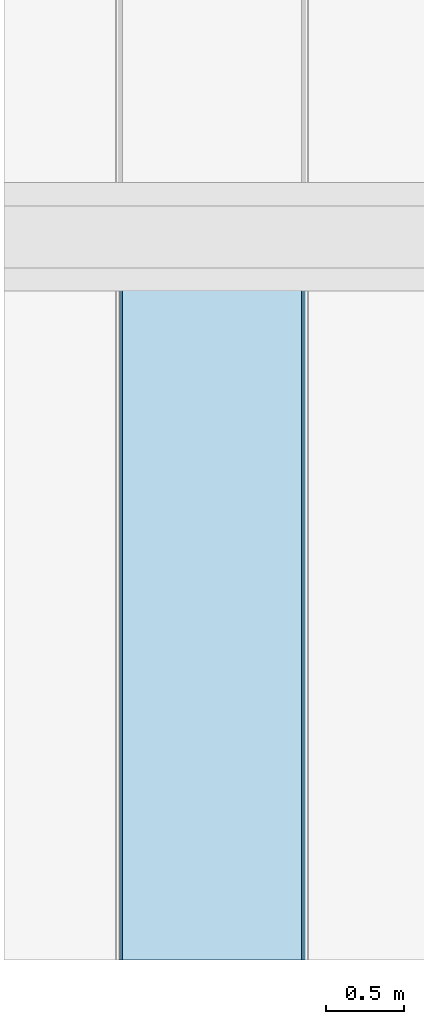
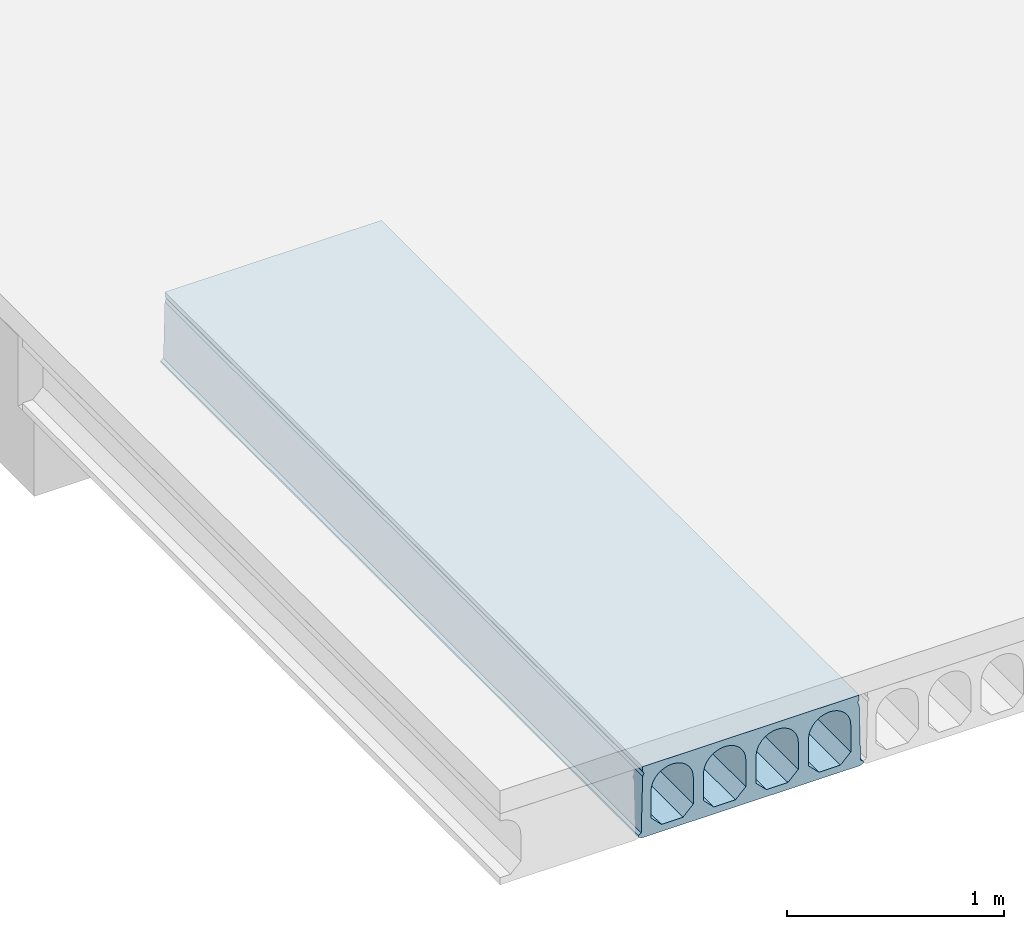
# One storey, part 39 of 98: 1 slab.
"""IFC2X3 building model written with IfcOpenShell, lengths in millimetres."""

from ifc_helpers import new_model, entity, si_unit, converted_unit, derived_unit, direction, frame, origin_with_axes, place, context, subcontext, project, spatial, faceted_brep, type_object, element, save


model = new_model("IFC2X3")

# Units and contexts
model_context = context("Model", 3, precision=0.01, world=frame((0.0, 4.29681676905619e-09, 0.0)), true_north=direction((4.01073788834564e-13, 1.0)))
plan_context = context("Plan", 3, precision=0.01, world=frame((0.0, 4.29681676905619e-09, 0.0)), true_north=direction((4.01073788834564e-13, 1.0)))
body_context = subcontext(model_context, "Body", "Model", "MODEL_VIEW")
ifc_project = project(units=[converted_unit("PLANEANGLEUNIT", "DEGREE", entity("IfcPositiveLengthMeasure", 0.0174532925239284), si_unit("PLANEANGLEUNIT", "RADIAN"), dimensions=[0, 0, 0, 0, 0, 0, 0]), si_unit("AREAUNIT", "SQUARE_METRE"), si_unit("LENGTHUNIT", "METRE", prefix="MILLI"), si_unit("MASSUNIT", "GRAM", prefix="KILO"), si_unit("POWERUNIT", "WATT"), si_unit("PRESSUREUNIT", "PASCAL"), si_unit("FORCEUNIT", "NEWTON", prefix="KILO"), si_unit("ELECTRICCURRENTUNIT", "AMPERE"), si_unit("THERMODYNAMICTEMPERATUREUNIT", "DEGREE_CELSIUS"), si_unit("TIMEUNIT", "SECOND"), si_unit("VOLUMEUNIT", "CUBIC_METRE"), derived_unit("LINEARVELOCITYUNIT", [(si_unit("LENGTHUNIT", "METRE"), 1), (si_unit("TIMEUNIT", "SECOND"), -1)]), derived_unit("VOLUMETRICFLOWRATEUNIT", [(si_unit("VOLUMEUNIT", "CUBIC_METRE"), 1), (si_unit("TIMEUNIT", "SECOND"), -1)]), derived_unit("THERMALTRANSMITTANCEUNIT", [(si_unit("POWERUNIT", "WATT"), 1), (si_unit("THERMODYNAMICTEMPERATUREUNIT", "KELVIN"), -1), (si_unit("AREAUNIT", "SQUARE_METRE"), -1)])], contexts=[model_context, plan_context])

# Site, building, storey
site_placement = place(None, frame((0.0, -4.29681676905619e-09, 0.0), z_axis=(0.0, 0.0, 1.0), x_axis=(1.0, 0.0, 0.0)))
site = spatial("IfcSite", under=ifc_project, at=site_placement, Name="Gardermoen", CompositionType="ELEMENT")
building_placement = place(site_placement, frame((0.0, 4.29681676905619e-09, 0.0), z_axis=(0.0, 0.0, 1.0), x_axis=(1.0, 0.0, 0.0)))
building = spatial("IfcBuilding", under=site, at=building_placement, Name="TS", CompositionType="ELEMENT")
storey_placement = place(building_placement, origin_with_axes())
storey = spatial("IfcBuildingStorey", under=building, at=storey_placement, Name="D", CompositionType="ELEMENT", Elevation=0.0)

# Slab
slab_type = type_object("IfcSlabType", Name="HD400", PredefinedType="NOTDEFINED")
slab_placement = place(storey_placement, frame((515199.999766, 396739.995625, 203600.0), z_axis=(0.0, 0.0, 1.0), x_axis=(0.0, 1.0, 0.0)))
element("IfcSlab", 1, at=slab_placement, inside=storey, type_object=slab_type, Name="HULLDEKKE", ObjectType="HD400", PredefinedType="FLOOR", context=body_context, shape_type="Brep", body=[
    faceted_brep([(4105.68103395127, 600.0, -180.0), (4105.68103395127, 600.0, -190.0), (8520.0, 600.0, -190.0), (8520.0, 600.0, -180.0), (4105.68103395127, 585.0, -170.0), (8520.0, 585.0, -170.0), (4105.68103395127, 577.5, 145.0), (8520.0, 577.5, 145.0), (4105.68103395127, 570.0, 160.0), (8520.0, 570.0, 160.0), (4105.68103395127, 577.5, 175.0), (8520.0, 577.5, 175.0), (4105.68103395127, 577.5, 200.0), (8520.0, 577.5, 200.0), (4105.68103395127, -577.5, 200.0), (8520.0, -577.5, 200.0), (4105.68103395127, -577.5, 175.0), (8520.0, -577.5, 175.0), (4105.68103395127, -570.0, 160.0), (8520.0, -570.0, 160.0), (4105.68103395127, -577.5, 145.0), (8520.0, -577.5, 145.0), (4105.68103395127, -585.0, -170.0), (8520.0, -585.0, -170.0), (4105.68103395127, -600.0, -180.0), (8520.0, -600.0, -180.0), (4105.68103395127, -600.0, -190.0), (8520.0, -600.0, -190.0), (4105.68103395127, -583.380004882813, -200.0), (8520.0, -583.380004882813, -200.0), (4105.68103395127, 583.380004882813, -200.0), (8520.0, 583.380004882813, -200.0), (4105.68103395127, -477.5, -160.0), (4105.68103395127, -362.5, -160.0), (8520.0, -362.5, -160.0), (8520.0, -477.5, -160.0), (4105.68103395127, -532.5, -105.0), (8520.0, -532.5, -105.0), (4105.68103395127, -532.5, 47.5), (8520.0, -532.5, 47.5), (4105.68103395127, -532.115755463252, 56.7901763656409), (8520.0, -532.115755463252, 56.7901763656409), (4105.68103395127, -530.965646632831, 66.0168914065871), (8520.0, -530.965646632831, 66.0168914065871), (4105.68103395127, -529.057529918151, 75.1171173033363), (8520.0, -529.057529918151, 75.1171173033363), (4105.68103395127, -526.404439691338, 84.028690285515), (8520.0, -526.404439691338, 84.028690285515), (4105.68103395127, -523.024499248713, 92.6907352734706), (8520.0, -523.024499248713, 92.6907352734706), (4105.68103395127, -518.940797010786, 101.044081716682), (8520.0, -518.940797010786, 101.044081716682), (4105.68103395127, -514.181228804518, 109.031667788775), (8520.0, -514.181228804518, 109.031667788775), (4105.68103395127, -508.778307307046, 116.598930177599), (8520.0, -508.778307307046, 116.598930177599), (4105.68103395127, -502.768939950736, 123.694176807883), (8520.0, -502.768939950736, 123.694176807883), (4105.68103395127, -496.194176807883, 130.268939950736), (8520.0, -496.194176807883, 130.268939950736), (4105.68103395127, -489.098930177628, 136.278307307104), (8520.0, -489.098930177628, 136.278307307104), (4105.68103395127, -481.531667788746, 141.681228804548), (8520.0, -481.531667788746, 141.681228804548), (4105.68103395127, -473.544081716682, 146.440797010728), (8520.0, -473.544081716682, 146.440797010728), (4105.68103395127, -465.190735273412, 150.524499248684), (8520.0, -465.190735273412, 150.524499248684), (4105.68103395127, -456.528690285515, 153.904439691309), (8520.0, -456.528690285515, 153.904439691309), (4105.68103395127, -447.617117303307, 156.55752991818), (8520.0, -447.617117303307, 156.55752991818), (4105.68103395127, -438.516891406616, 158.465646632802), (8520.0, -438.516891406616, 158.465646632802), (4105.68103395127, -429.290176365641, 159.615755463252), (8520.0, -429.290176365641, 159.615755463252), (4105.68103395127, -420.0, 160.0), (8520.0, -420.0, 160.0), (4105.68103395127, -410.709823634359, 159.615755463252), (8520.0, -410.709823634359, 159.615755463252), (4105.68103395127, -401.483108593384, 158.465646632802), (8520.0, -401.483108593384, 158.465646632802), (4105.68103395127, -392.382882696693, 156.55752991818), (8520.0, -392.382882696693, 156.55752991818), (4105.68103395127, -383.471309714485, 153.904439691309), (8520.0, -383.471309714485, 153.904439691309), (4105.68103395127, -374.809264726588, 150.524499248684), (8520.0, -374.809264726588, 150.524499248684), (4105.68103395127, -366.455918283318, 146.440797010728), (8520.0, -366.455918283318, 146.440797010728), (4105.68103395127, -358.468332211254, 141.681228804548), (8520.0, -358.468332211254, 141.681228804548), (4105.68103395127, -350.901069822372, 136.278307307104), (8520.0, -350.901069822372, 136.278307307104), (4105.68103395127, -343.805823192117, 130.268939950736), (8520.0, -343.805823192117, 130.268939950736), (4105.68103395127, -337.231060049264, 123.694176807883), (8520.0, -337.231060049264, 123.694176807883), (4105.68103395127, -331.221692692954, 116.598930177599), (8520.0, -331.221692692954, 116.598930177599), (4105.68103395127, -325.818771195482, 109.031667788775), (8520.0, -325.818771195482, 109.031667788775), (4105.68103395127, -321.059202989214, 101.044081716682), (8520.0, -321.059202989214, 101.044081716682), (4105.68103395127, -316.975500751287, 92.6907352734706), (8520.0, -316.975500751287, 92.6907352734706), (4105.68103395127, -313.595560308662, 84.028690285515), (8520.0, -313.595560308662, 84.028690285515), (4105.68103395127, -310.942470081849, 75.1171173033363), (8520.0, -310.942470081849, 75.1171173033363), (4105.68103395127, -309.034353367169, 66.0168914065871), (8520.0, -309.034353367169, 66.0168914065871), (4105.68103395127, -307.884244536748, 56.7901763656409), (8520.0, -307.884244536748, 56.7901763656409), (4105.68103395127, -307.5, 47.5), (8520.0, -307.5, 47.5), (4105.68103395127, -307.5, -105.0), (8520.0, -307.5, -105.0), (4105.68103395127, -197.5, -160.0), (4105.68103395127, -82.5, -160.0), (8520.0, -82.5, -160.0), (8520.0, -197.5, -160.0), (4105.68103395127, -252.5, -105.0), (8520.0, -252.5, -105.0), (4105.68103395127, -252.5, 47.5), (8520.0, -252.5, 47.5), (4105.68103395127, -252.115755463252, 56.7901763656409), (8520.0, -252.115755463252, 56.7901763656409), (4105.68103395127, -250.965646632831, 66.0168914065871), (8520.0, -250.965646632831, 66.0168914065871), (4105.68103395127, -249.057529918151, 75.1171173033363), (8520.0, -249.057529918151, 75.1171173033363), (4105.68103395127, -246.404439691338, 84.028690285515), (8520.0, -246.404439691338, 84.028690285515), (4105.68103395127, -243.024499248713, 92.6907352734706), (8520.0, -243.024499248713, 92.6907352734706), (4105.68103395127, -238.940797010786, 101.044081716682), (8520.0, -238.940797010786, 101.044081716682), (4105.68103395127, -234.181228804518, 109.031667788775), (8520.0, -234.181228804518, 109.031667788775), (4105.68103395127, -228.778307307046, 116.598930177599), (8520.0, -228.778307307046, 116.598930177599), (4105.68103395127, -222.768939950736, 123.694176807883), (8520.0, -222.768939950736, 123.694176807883), (4105.68103395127, -216.194176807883, 130.268939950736), (8520.0, -216.194176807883, 130.268939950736), (4105.68103395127, -209.098930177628, 136.278307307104), (8520.0, -209.098930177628, 136.278307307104), (4105.68103395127, -201.531667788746, 141.681228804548), (8520.0, -201.531667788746, 141.681228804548), (4105.68103395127, -193.544081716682, 146.440797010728), (8520.0, -193.544081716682, 146.440797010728), (4105.68103395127, -185.190735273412, 150.524499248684), (8520.0, -185.190735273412, 150.524499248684), (4105.68103395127, -176.528690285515, 153.904439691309), (8520.0, -176.528690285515, 153.904439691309), (4105.68103395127, -167.617117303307, 156.55752991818), (8520.0, -167.617117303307, 156.55752991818), (4105.68103395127, -158.516891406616, 158.465646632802), (8520.0, -158.516891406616, 158.465646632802), (4105.68103395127, -149.290176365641, 159.615755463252), (8520.0, -149.290176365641, 159.615755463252), (4105.68103395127, -140.0, 160.0), (8520.0, -140.0, 160.0), (4105.68103395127, -130.709823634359, 159.615755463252), (8520.0, -130.709823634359, 159.615755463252), (4105.68103395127, -121.483108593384, 158.465646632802), (8520.0, -121.483108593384, 158.465646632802), (4105.68103395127, -112.382882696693, 156.55752991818), (8520.0, -112.382882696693, 156.55752991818), (4105.68103395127, -103.471309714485, 153.904439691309), (8520.0, -103.471309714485, 153.904439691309), (4105.68103395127, -94.8092647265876, 150.524499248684), (8520.0, -94.8092647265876, 150.524499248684), (4105.68103395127, -86.4559182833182, 146.440797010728), (8520.0, -86.4559182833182, 146.440797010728), (4105.68103395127, -78.4683322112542, 141.681228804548), (8520.0, -78.4683322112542, 141.681228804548), (4105.68103395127, -70.9010698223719, 136.278307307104), (8520.0, -70.9010698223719, 136.278307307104), (4105.68103395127, -63.8058231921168, 130.268939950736), (8520.0, -63.8058231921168, 130.268939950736), (4105.68103395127, -57.2310600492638, 123.694176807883), (8520.0, -57.2310600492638, 123.694176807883), (4105.68103395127, -51.2216926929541, 116.598930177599), (8520.0, -51.2216926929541, 116.598930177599), (4105.68103395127, -45.8187711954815, 109.031667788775), (8520.0, -45.8187711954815, 109.031667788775), (4105.68103395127, -41.0592029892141, 101.044081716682), (8520.0, -41.0592029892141, 101.044081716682), (4105.68103395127, -36.9755007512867, 92.6907352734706), (8520.0, -36.9755007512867, 92.6907352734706), (4105.68103395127, -33.5955603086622, 84.028690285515), (8520.0, -33.5955603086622, 84.028690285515), (4105.68103395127, -30.942470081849, 75.1171173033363), (8520.0, -30.942470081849, 75.1171173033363), (4105.68103395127, -29.0343533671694, 66.0168914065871), (8520.0, -29.0343533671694, 66.0168914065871), (4105.68103395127, -27.8842445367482, 56.7901763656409), (8520.0, -27.8842445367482, 56.7901763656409), (4105.68103395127, -27.5, 47.5), (8520.0, -27.5, 47.5), (4105.68103395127, -27.5, -105.0), (8520.0, -27.5, -105.0), (4105.68103395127, 82.5, -160.0), (4105.68103395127, 197.5, -160.0), (8520.0, 197.5, -160.0), (8520.0, 82.5, -160.0), (4105.68103395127, 27.5, -105.0), (8520.0, 27.5, -105.0), (4105.68103395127, 27.5, 47.5), (8520.0, 27.5, 47.5), (4105.68103395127, 27.8842445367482, 56.7901763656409), (8520.0, 27.8842445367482, 56.7901763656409), (4105.68103395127, 29.0343533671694, 66.0168914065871), (8520.0, 29.0343533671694, 66.0168914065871), (4105.68103395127, 30.942470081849, 75.1171173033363), (8520.0, 30.942470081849, 75.1171173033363), (4105.68103395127, 33.5955603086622, 84.028690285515), (8520.0, 33.5955603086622, 84.028690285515), (4105.68103395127, 36.9755007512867, 92.6907352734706), (8520.0, 36.9755007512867, 92.6907352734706), (4105.68103395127, 41.0592029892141, 101.044081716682), (8520.0, 41.0592029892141, 101.044081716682), (4105.68103395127, 45.8187711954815, 109.031667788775), (8520.0, 45.8187711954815, 109.031667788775), (4105.68103395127, 51.2216926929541, 116.598930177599), (8520.0, 51.2216926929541, 116.598930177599), (4105.68103395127, 57.2310600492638, 123.694176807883), (8520.0, 57.2310600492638, 123.694176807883), (4105.68103395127, 63.8058231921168, 130.268939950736), (8520.0, 63.8058231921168, 130.268939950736), (4105.68103395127, 70.9010698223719, 136.278307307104), (8520.0, 70.9010698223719, 136.278307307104), (4105.68103395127, 78.4683322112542, 141.681228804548), (8520.0, 78.4683322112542, 141.681228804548), (4105.68103395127, 86.4559182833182, 146.440797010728), (8520.0, 86.4559182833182, 146.440797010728), (4105.68103395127, 94.8092647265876, 150.524499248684), (8520.0, 94.8092647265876, 150.524499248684), (4105.68103395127, 103.471309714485, 153.904439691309), (8520.0, 103.471309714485, 153.904439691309), (4105.68103395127, 112.382882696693, 156.55752991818), (8520.0, 112.382882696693, 156.55752991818), (4105.68103395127, 121.483108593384, 158.465646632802), (8520.0, 121.483108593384, 158.465646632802), (4105.68103395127, 130.709823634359, 159.615755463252), (8520.0, 130.709823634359, 159.615755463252), (4105.68103395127, 140.0, 160.0), (8520.0, 140.0, 160.0), (4105.68103395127, 149.290176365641, 159.615755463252), (8520.0, 149.290176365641, 159.615755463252), (4105.68103395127, 158.516891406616, 158.465646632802), (8520.0, 158.516891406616, 158.465646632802), (4105.68103395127, 167.617117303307, 156.55752991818), (8520.0, 167.617117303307, 156.55752991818), (4105.68103395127, 176.528690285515, 153.904439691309), (8520.0, 176.528690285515, 153.904439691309), (4105.68103395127, 185.190735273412, 150.524499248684), (8520.0, 185.190735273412, 150.524499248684), (4105.68103395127, 193.544081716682, 146.440797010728), (8520.0, 193.544081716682, 146.440797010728), (4105.68103395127, 201.531667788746, 141.681228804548), (8520.0, 201.531667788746, 141.681228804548), (4105.68103395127, 209.098930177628, 136.278307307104), (8520.0, 209.098930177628, 136.278307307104), (4105.68103395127, 216.194176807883, 130.268939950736), (8520.0, 216.194176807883, 130.268939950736), (4105.68103395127, 222.768939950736, 123.694176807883), (8520.0, 222.768939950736, 123.694176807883), (4105.68103395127, 228.778307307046, 116.598930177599), (8520.0, 228.778307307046, 116.598930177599), (4105.68103395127, 234.181228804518, 109.031667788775), (8520.0, 234.181228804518, 109.031667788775), (4105.68103395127, 238.940797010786, 101.044081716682), (8520.0, 238.940797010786, 101.044081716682), (4105.68103395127, 243.024499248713, 92.6907352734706), (8520.0, 243.024499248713, 92.6907352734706), (4105.68103395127, 246.404439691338, 84.028690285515), (8520.0, 246.404439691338, 84.028690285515), (4105.68103395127, 249.057529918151, 75.1171173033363), (8520.0, 249.057529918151, 75.1171173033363), (4105.68103395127, 250.965646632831, 66.0168914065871), (8520.0, 250.965646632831, 66.0168914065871), (4105.68103395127, 252.115755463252, 56.7901763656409), (8520.0, 252.115755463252, 56.7901763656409), (4105.68103395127, 252.5, 47.5), (8520.0, 252.5, 47.5), (4105.68103395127, 252.5, -105.0), (8520.0, 252.5, -105.0), (4105.68103395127, 362.5, -160.0), (4105.68103395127, 477.5, -160.0), (8520.0, 477.5, -160.0), (8520.0, 362.5, -160.0), (4105.68103395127, 307.5, -105.0), (8520.0, 307.5, -105.0), (4105.68103395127, 307.5, 47.5), (8520.0, 307.5, 47.5), (4105.68103395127, 307.884244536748, 56.7901763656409), (8520.0, 307.884244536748, 56.7901763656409), (4105.68103395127, 309.034353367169, 66.0168914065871), (8520.0, 309.034353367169, 66.0168914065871), (4105.68103395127, 310.942470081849, 75.1171173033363), (8520.0, 310.942470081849, 75.1171173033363), (4105.68103395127, 313.595560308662, 84.028690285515), (8520.0, 313.595560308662, 84.028690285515), (4105.68103395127, 316.975500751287, 92.6907352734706), (8520.0, 316.975500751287, 92.6907352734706), (4105.68103395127, 321.059202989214, 101.044081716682), (8520.0, 321.059202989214, 101.044081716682), (4105.68103395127, 325.818771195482, 109.031667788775), (8520.0, 325.818771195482, 109.031667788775), (4105.68103395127, 331.221692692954, 116.598930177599), (8520.0, 331.221692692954, 116.598930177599), (4105.68103395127, 337.231060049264, 123.694176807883), (8520.0, 337.231060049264, 123.694176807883), (4105.68103395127, 343.805823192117, 130.268939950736), (8520.0, 343.805823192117, 130.268939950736), (4105.68103395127, 350.901069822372, 136.278307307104), (8520.0, 350.901069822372, 136.278307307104), (4105.68103395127, 358.468332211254, 141.681228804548), (8520.0, 358.468332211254, 141.681228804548), (4105.68103395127, 366.455918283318, 146.440797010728), (8520.0, 366.455918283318, 146.440797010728), (4105.68103395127, 374.809264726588, 150.524499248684), (8520.0, 374.809264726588, 150.524499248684), (4105.68103395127, 383.471309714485, 153.904439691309), (8520.0, 383.471309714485, 153.904439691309), (4105.68103395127, 392.382882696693, 156.55752991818), (8520.0, 392.382882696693, 156.55752991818), (4105.68103395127, 401.483108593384, 158.465646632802), (8520.0, 401.483108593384, 158.465646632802), (4105.68103395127, 410.709823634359, 159.615755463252), (8520.0, 410.709823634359, 159.615755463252), (4105.68103395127, 420.0, 160.0), (8520.0, 420.0, 160.0), (4105.68103395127, 429.290176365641, 159.615755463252), (8520.0, 429.290176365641, 159.615755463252), (4105.68103395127, 438.516891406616, 158.465646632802), (8520.0, 438.516891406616, 158.465646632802), (4105.68103395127, 447.617117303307, 156.55752991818), (8520.0, 447.617117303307, 156.55752991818), (4105.68103395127, 456.528690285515, 153.904439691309), (8520.0, 456.528690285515, 153.904439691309), (4105.68103395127, 465.190735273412, 150.524499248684), (8520.0, 465.190735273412, 150.524499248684), (4105.68103395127, 473.544081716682, 146.440797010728), (8520.0, 473.544081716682, 146.440797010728), (4105.68103395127, 481.531667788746, 141.681228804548), (8520.0, 481.531667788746, 141.681228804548), (4105.68103395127, 489.098930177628, 136.278307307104), (8520.0, 489.098930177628, 136.278307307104), (4105.68103395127, 496.194176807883, 130.268939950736), (8520.0, 496.194176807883, 130.268939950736), (4105.68103395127, 502.768939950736, 123.694176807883), (8520.0, 502.768939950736, 123.694176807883), (4105.68103395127, 508.778307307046, 116.598930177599), (8520.0, 508.778307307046, 116.598930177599), (4105.68103395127, 514.181228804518, 109.031667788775), (8520.0, 514.181228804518, 109.031667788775), (4105.68103395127, 518.940797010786, 101.044081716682), (8520.0, 518.940797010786, 101.044081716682), (4105.68103395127, 523.024499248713, 92.6907352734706), (8520.0, 523.024499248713, 92.6907352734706), (4105.68103395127, 526.404439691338, 84.028690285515), (8520.0, 526.404439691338, 84.028690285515), (4105.68103395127, 529.057529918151, 75.1171173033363), (8520.0, 529.057529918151, 75.1171173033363), (4105.68103395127, 530.965646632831, 66.0168914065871), (8520.0, 530.965646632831, 66.0168914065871), (4105.68103395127, 532.115755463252, 56.7901763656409), (8520.0, 532.115755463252, 56.7901763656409), (4105.68103395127, 532.5, 47.5), (8520.0, 532.5, 47.5), (4105.68103395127, 532.5, -105.0), (8520.0, 532.5, -105.0)], [[[0, 1, 2, 3]], [[4, 0, 3, 5]], [[6, 4, 5, 7]], [[8, 6, 7, 9]], [[10, 8, 9, 11]], [[12, 10, 11, 13]], [[14, 12, 13, 15]], [[16, 14, 15, 17]], [[18, 16, 17, 19]], [[20, 18, 19, 21]], [[22, 20, 21, 23]], [[24, 22, 23, 25]], [[26, 24, 25, 27]], [[28, 26, 27, 29]], [[30, 28, 29, 31]], [[1, 30, 31, 2]], [[32, 33, 34, 35]], [[36, 32, 35, 37]], [[38, 36, 37, 39]], [[40, 38, 39, 41]], [[42, 40, 41, 43]], [[44, 42, 43, 45]], [[46, 44, 45, 47]], [[48, 46, 47, 49]], [[50, 48, 49, 51]], [[52, 50, 51, 53]], [[54, 52, 53, 55]], [[56, 54, 55, 57]], [[58, 56, 57, 59]], [[60, 58, 59, 61]], [[62, 60, 61, 63]], [[64, 62, 63, 65]], [[66, 64, 65, 67]], [[68, 66, 67, 69]], [[70, 68, 69, 71]], [[72, 70, 71, 73]], [[74, 72, 73, 75]], [[76, 74, 75, 77]], [[78, 76, 77, 79]], [[80, 78, 79, 81]], [[82, 80, 81, 83]], [[84, 82, 83, 85]], [[86, 84, 85, 87]], [[88, 86, 87, 89]], [[90, 88, 89, 91]], [[92, 90, 91, 93]], [[94, 92, 93, 95]], [[96, 94, 95, 97]], [[98, 96, 97, 99]], [[100, 98, 99, 101]], [[102, 100, 101, 103]], [[104, 102, 103, 105]], [[106, 104, 105, 107]], [[108, 106, 107, 109]], [[110, 108, 109, 111]], [[112, 110, 111, 113]], [[114, 112, 113, 115]], [[116, 114, 115, 117]], [[33, 116, 117, 34]], [[118, 119, 120, 121]], [[122, 118, 121, 123]], [[124, 122, 123, 125]], [[126, 124, 125, 127]], [[128, 126, 127, 129]], [[130, 128, 129, 131]], [[132, 130, 131, 133]], [[134, 132, 133, 135]], [[136, 134, 135, 137]], [[138, 136, 137, 139]], [[140, 138, 139, 141]], [[142, 140, 141, 143]], [[144, 142, 143, 145]], [[146, 144, 145, 147]], [[148, 146, 147, 149]], [[150, 148, 149, 151]], [[152, 150, 151, 153]], [[154, 152, 153, 155]], [[156, 154, 155, 157]], [[158, 156, 157, 159]], [[160, 158, 159, 161]], [[162, 160, 161, 163]], [[164, 162, 163, 165]], [[166, 164, 165, 167]], [[168, 166, 167, 169]], [[170, 168, 169, 171]], [[172, 170, 171, 173]], [[174, 172, 173, 175]], [[176, 174, 175, 177]], [[178, 176, 177, 179]], [[180, 178, 179, 181]], [[182, 180, 181, 183]], [[184, 182, 183, 185]], [[186, 184, 185, 187]], [[188, 186, 187, 189]], [[190, 188, 189, 191]], [[192, 190, 191, 193]], [[194, 192, 193, 195]], [[196, 194, 195, 197]], [[198, 196, 197, 199]], [[200, 198, 199, 201]], [[202, 200, 201, 203]], [[119, 202, 203, 120]], [[204, 205, 206, 207]], [[208, 204, 207, 209]], [[210, 208, 209, 211]], [[212, 210, 211, 213]], [[214, 212, 213, 215]], [[216, 214, 215, 217]], [[218, 216, 217, 219]], [[220, 218, 219, 221]], [[222, 220, 221, 223]], [[224, 222, 223, 225]], [[226, 224, 225, 227]], [[228, 226, 227, 229]], [[230, 228, 229, 231]], [[232, 230, 231, 233]], [[234, 232, 233, 235]], [[236, 234, 235, 237]], [[238, 236, 237, 239]], [[240, 238, 239, 241]], [[242, 240, 241, 243]], [[244, 242, 243, 245]], [[246, 244, 245, 247]], [[248, 246, 247, 249]], [[250, 248, 249, 251]], [[252, 250, 251, 253]], [[254, 252, 253, 255]], [[256, 254, 255, 257]], [[258, 256, 257, 259]], [[260, 258, 259, 261]], [[262, 260, 261, 263]], [[264, 262, 263, 265]], [[266, 264, 265, 267]], [[268, 266, 267, 269]], [[270, 268, 269, 271]], [[272, 270, 271, 273]], [[274, 272, 273, 275]], [[276, 274, 275, 277]], [[278, 276, 277, 279]], [[280, 278, 279, 281]], [[282, 280, 281, 283]], [[284, 282, 283, 285]], [[286, 284, 285, 287]], [[288, 286, 287, 289]], [[205, 288, 289, 206]], [[290, 291, 292, 293]], [[294, 290, 293, 295]], [[296, 294, 295, 297]], [[298, 296, 297, 299]], [[300, 298, 299, 301]], [[302, 300, 301, 303]], [[304, 302, 303, 305]], [[306, 304, 305, 307]], [[308, 306, 307, 309]], [[310, 308, 309, 311]], [[312, 310, 311, 313]], [[314, 312, 313, 315]], [[316, 314, 315, 317]], [[318, 316, 317, 319]], [[320, 318, 319, 321]], [[322, 320, 321, 323]], [[324, 322, 323, 325]], [[326, 324, 325, 327]], [[328, 326, 327, 329]], [[330, 328, 329, 331]], [[332, 330, 331, 333]], [[334, 332, 333, 335]], [[336, 334, 335, 337]], [[338, 336, 337, 339]], [[340, 338, 339, 341]], [[342, 340, 341, 343]], [[344, 342, 343, 345]], [[346, 344, 345, 347]], [[348, 346, 347, 349]], [[350, 348, 349, 351]], [[352, 350, 351, 353]], [[354, 352, 353, 355]], [[356, 354, 355, 357]], [[358, 356, 357, 359]], [[360, 358, 359, 361]], [[362, 360, 361, 363]], [[364, 362, 363, 365]], [[366, 364, 365, 367]], [[368, 366, 367, 369]], [[370, 368, 369, 371]], [[372, 370, 371, 373]], [[374, 372, 373, 375]], [[291, 374, 375, 292]], [[3, 2, 31, 29, 27, 25, 23, 21, 19, 17, 15, 13, 11, 9, 7, 5], [293, 292, 375, 373, 371, 369, 367, 365, 363, 361, 359, 357, 355, 353, 351, 349, 347, 345, 343, 341, 339, 337, 335, 333, 331, 329, 327, 325, 323, 321, 319, 317, 315, 313, 311, 309, 307, 305, 303, 301, 299, 297, 295], [207, 206, 289, 287, 285, 283, 281, 279, 277, 275, 273, 271, 269, 267, 265, 263, 261, 259, 257, 255, 253, 251, 249, 247, 245, 243, 241, 239, 237, 235, 233, 231, 229, 227, 225, 223, 221, 219, 217, 215, 213, 211, 209], [121, 120, 203, 201, 199, 197, 195, 193, 191, 189, 187, 185, 183, 181, 179, 177, 175, 173, 171, 169, 167, 165, 163, 161, 159, 157, 155, 153, 151, 149, 147, 145, 143, 141, 139, 137, 135, 133, 131, 129, 127, 125, 123], [35, 34, 117, 115, 113, 111, 109, 107, 105, 103, 101, 99, 97, 95, 93, 91, 89, 87, 85, 83, 81, 79, 77, 75, 73, 71, 69, 67, 65, 63, 61, 59, 57, 55, 53, 51, 49, 47, 45, 43, 41, 39, 37]], [[4, 6, 8, 10, 12, 14, 16, 18, 20, 22, 24, 26, 28, 30, 1, 0], [36, 38, 40, 42, 44, 46, 48, 50, 52, 54, 56, 58, 60, 62, 64, 66, 68, 70, 72, 74, 76, 78, 80, 82, 84, 86, 88, 90, 92, 94, 96, 98, 100, 102, 104, 106, 108, 110, 112, 114, 116, 33, 32], [122, 124, 126, 128, 130, 132, 134, 136, 138, 140, 142, 144, 146, 148, 150, 152, 154, 156, 158, 160, 162, 164, 166, 168, 170, 172, 174, 176, 178, 180, 182, 184, 186, 188, 190, 192, 194, 196, 198, 200, 202, 119, 118], [208, 210, 212, 214, 216, 218, 220, 222, 224, 226, 228, 230, 232, 234, 236, 238, 240, 242, 244, 246, 248, 250, 252, 254, 256, 258, 260, 262, 264, 266, 268, 270, 272, 274, 276, 278, 280, 282, 284, 286, 288, 205, 204], [294, 296, 298, 300, 302, 304, 306, 308, 310, 312, 314, 316, 318, 320, 322, 324, 326, 328, 330, 332, 334, 336, 338, 340, 342, 344, 346, 348, 350, 352, 354, 356, 358, 360, 362, 364, 366, 368, 370, 372, 374, 291, 290]]], orient=[[False], [False], [False], [False], [False], [False], [False], [False], [False], [False], [False], [False], [False], [False], [False], [False], [False], [False], [False], [False], [False], [False], [False], [False], [False], [False], [False], [False], [False], [False], [False], [False], [False], [False], [False], [False], [False], [False], [False], [False], [False], [False], [False], [False], [False], [False], [False], [False], [False], [False], [False], [False], [False], [False], [False], [False], [False], [False], [False], [False], [False], [False], [False], [False], [False], [False], [False], [False], [False], [False], [False], [False], [False], [False], [False], [False], [False], [False], [False], [False], [False], [False], [False], [False], [False], [False], [False], [False], [False], [False], [False], [False], [False], [False], [False], [False], [False], [False], [False], [False], [False], [False], [False], [False], [False], [False], [False], [False], [False], [False], [False], [False], [False], [False], [False], [False], [False], [False], [False], [False], [False], [False], [False], [False], [False], [False], [False], [False], [False], [False], [False], [False], [False], [False], [False], [False], [False], [False], [False], [False], [False], [False], [False], [False], [False], [False], [False], [False], [False], [False], [False], [False], [False], [False], [False], [False], [False], [False], [False], [False], [False], [False], [False], [False], [False], [False], [False], [False], [False], [False], [False], [False], [False], [False], [False], [False], [False], [False], [False], [False], [False], [False], [False], [False], [False], [False], [False], [False], [False, False, False, False, False], [False, False, False, False, False]]),
])

save(model, "model.ifc")
